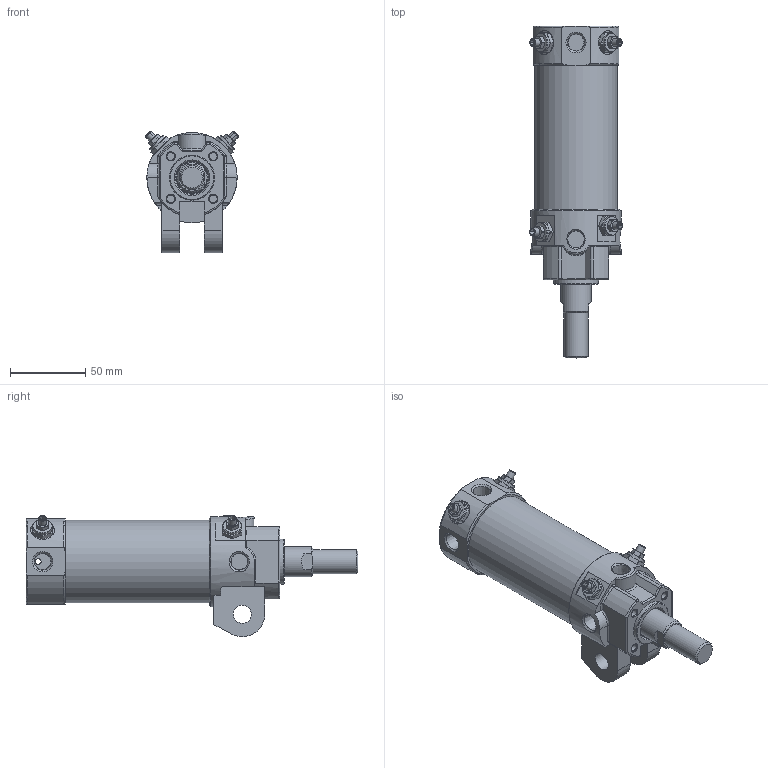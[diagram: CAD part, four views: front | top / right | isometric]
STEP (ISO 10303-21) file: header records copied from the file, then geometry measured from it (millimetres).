
FILE_DESCRIPTION((''),'2;1');
FILE_NAME('I:\3D電子目錄\氣缸\DCK\DCK\DCK-1A-50x50.stp','2008-02-26T14:11:31',('Administrator'),(''),'Autodesk Inventor 11','Autodesk Inventor 11','');
FILE_SCHEMA(('AUTOMOTIVE_DESIGN { 1 0 10303 214 1 1 1 1 }'));
Length unit declared in the file: millimetre
Products named in the file (6): DCK-1A-50; 緩衝針; 緩衝針-1; 緩衝針-201; 緩衝針-3
Assembly tree (8 placements, depth 3):
  DCK-1A-50
    DCK-1A-50
    緩衝針  x4
      緩衝針-1
      緩衝針-201
      緩衝針-3
Bounding box: 61.76 x 221 x 80.87 mm (x, y, z)
Volume: 232468.7 mm3; surface area: 93544.3 mm2
Topology: 15 solids, 15 shells, 570 faces, 1270 edges, 794 vertices
Faces by surface type: plane 213, cylinder 168, cone 133, torus 30, bspline 26
Full cylindrical faces by diameter (mm): 2 x2, 3 x4, 3.8 x2, 4 x6, 4.6 x4, 5 x8, 5.1 x4, 5.2 x12, 5.5 x4, 7.25 x1, 7.9 x4, 8 x2, 10.3 x1, 11.3 x1, 12 x4, 12.8 x4, 16 x2, 20 x1, 21 x1, 22 x2, 23 x1, 24.7 x1, 26 x1, 27 x1, 28 x1, 29 x1, 30 x1, 33 x1, 49.5 x1, 52 x2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
Entity records: 11478 total; most frequent: CARTESIAN_POINT 4706, DIRECTION 1374, ORIENTED_EDGE 1222, EDGE_CURVE 611, AXIS2_PLACEMENT_3D 598, EDGE_LOOP 497, VERTEX_POINT 444, FACE_OUTER_BOUND 321
